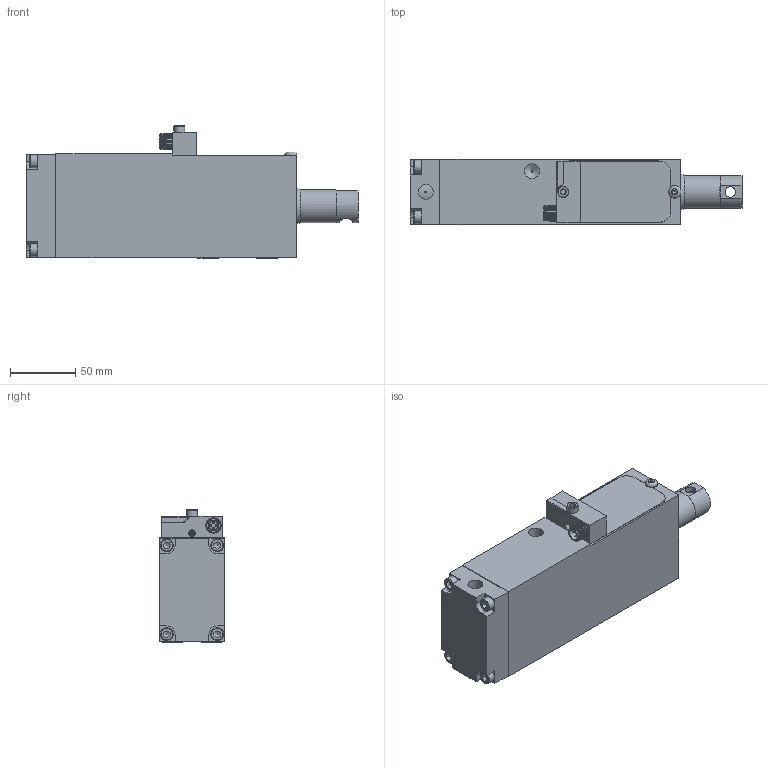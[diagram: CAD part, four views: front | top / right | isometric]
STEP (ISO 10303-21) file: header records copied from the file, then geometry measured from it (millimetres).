
FILE_DESCRIPTION(/* description */ (''),/* implementation_level */ '2;1');
FILE_NAME(/* name */ 'M:\cad\PRODUCT\LSA\LSA - 73\STEP FILES\LSA-73 S\25mm Stroke\LSA-73-S 25mm - Extend.stp',/* time_stamp */ '2018-06-01T11:05:41-04:00',/* author */ ('Tyler'),/* organization */ (''),/* preprocessor_version */ 'ST-DEVELOPER v17',/* originating_system */ 'Autodesk Inventor 2019',/* authorisation */ '');
FILE_SCHEMA (('AUTOMOTIVE_DESIGN { 1 0 10303 214 3 1 1 }'));
Length unit declared in the file: inch
Products named in the file (1): LSA-73-S  25_50 Stroke - Stripped for STEP_ 25mm extend
Bounding box: 255 x 50.01 x 101.61 mm (x, y, z)
Volume: 590544.1 mm3; surface area: 139239 mm2
Topology: 2 solids, 2 shells, 484 faces, 1380 edges, 929 vertices
Faces by surface type: plane 223, cylinder 188, cone 60, torus 10, bspline 3
Full cylindrical faces by diameter (mm): 1 x8, 1.321 x2, 2 x2, 3.251 x1, 3.264 x6, 3.961 x25, 5 x26, 5.3 x4, 7.671 x2, 8.019 x1, 8.072 x2, 8.128 x1, 8.3 x1, 8.331 x1, 8.382 x4, 8.5 x1, 9.5 x1, 10 x5, 10.16 x1, 10.5 x1, 11.43 x1, 11.455 x1, 12 x1, 12.7 x2, 14.605 x1, 15.478 x1, 16.007 x1, 17.62 x1, 19.05 x2, 25.391 x1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
Entity records: 21989 total; most frequent: CARTESIAN_POINT 8686, ORIENTED_EDGE 2724, DIRECTION 2630, EDGE_CURVE 1362, AXIS2_PLACEMENT_3D 967, VERTEX_POINT 929, LINE 696, VECTOR 696
